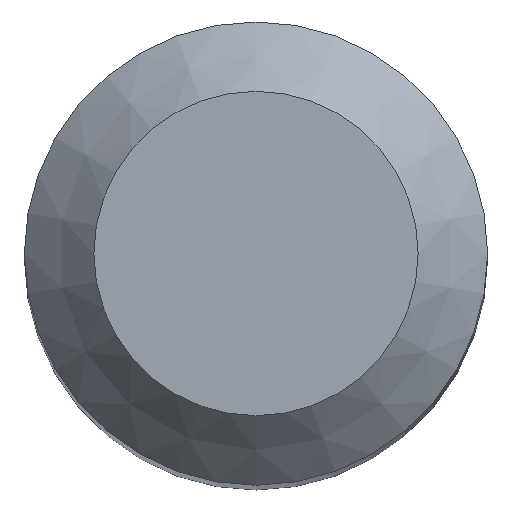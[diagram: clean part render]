
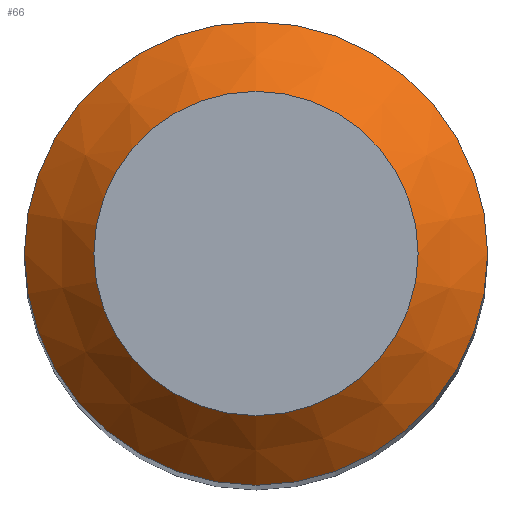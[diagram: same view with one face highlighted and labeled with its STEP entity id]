
A CAD part, top view. The second image highlights one B-rep face of the part: STEP entity #66.
In plain terms, the highlighted conical face has half-angle 45 degrees and reference radius 3 mm.
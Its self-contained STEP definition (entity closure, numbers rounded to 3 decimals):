
#58=CONICAL_SURFACE('',#243,3.,45.);
#66=ADVANCED_FACE('',(#84,#85),#58,.T.);
#84=FACE_BOUND('',#100,.T.);
#85=FACE_BOUND('',#101,.T.);
#100=EDGE_LOOP('',(#118));
#101=EDGE_LOOP('',(#119));
#118=ORIENTED_EDGE('',*,*,#143,.F.);
#119=ORIENTED_EDGE('',*,*,#142,.T.);
#132=VERTEX_POINT('',#331);
#133=VERTEX_POINT('',#334);
#142=EDGE_CURVE('',#132,#132,#151,.T.);
#143=EDGE_CURVE('',#133,#133,#152,.T.);
#151=CIRCLE('',#240,3.);
#152=CIRCLE('',#242,2.1);
#240=AXIS2_PLACEMENT_3D('',#330,#280,#281);
#242=AXIS2_PLACEMENT_3D('',#333,#284,#285);
#243=AXIS2_PLACEMENT_3D('',#335,#286,#287);
#280=DIRECTION('',(0.,0.,1.));
#281=DIRECTION('',(0.,-1.,0.));
#284=DIRECTION('',(0.,0.,1.));
#285=DIRECTION('',(0.,-1.,0.));
#286=DIRECTION('',(0.,0.,-1.));
#287=DIRECTION('',(0.,-1.,0.));
#330=CARTESIAN_POINT('',(0.,0.,-0.9));
#331=CARTESIAN_POINT('',(0.,-3.,-0.9));
#333=CARTESIAN_POINT('',(0.,0.,0.));
#334=CARTESIAN_POINT('',(0.,-2.1,0.));
#335=CARTESIAN_POINT('',(0.,0.,-0.9));
